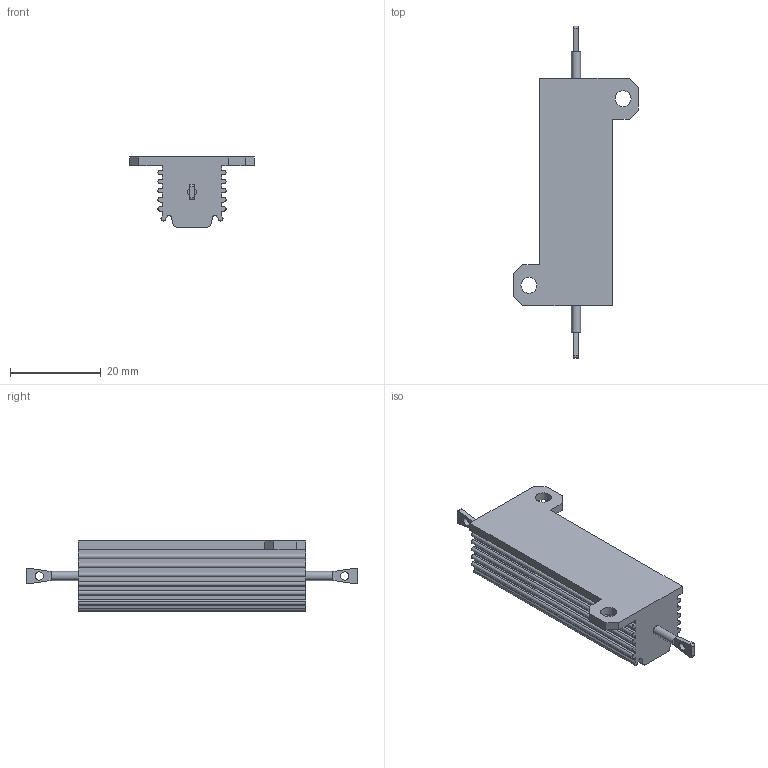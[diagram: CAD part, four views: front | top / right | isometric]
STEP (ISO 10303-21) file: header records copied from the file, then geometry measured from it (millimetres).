
FILE_DESCRIPTION(/* description */ ('STEP AP242 Edition 2','CAx-IF Rec.Pracs.---Representation and Presentation of Product Manufacturing Information (PMI)---4.0---2014-10-13','CAx-IF Rec.Pracs.---3D Tessellated Geometry---0.4---2014-09-14','2;1','CAx-IF Rec.Pracs.---User Defined Attributes---1.5---2016-08-15'),/* implementation_level */ '2;1');
FILE_NAME(/* name */ 'Assy_ForMFG - PWR_RESISTOR',/* time_stamp */ '2026-05-15T19:56:56Z',/* author */ (''),/* organization */ (''),/* preprocessor_version */ 'ST-DEVELOPER v20',/* originating_system */ 'ONSHAPE BY PTC INC, 1.215',/* authorisation */ ' ');
FILE_SCHEMA (('AP242_MANAGED_MODEL_BASED_3D_ENGINEERING_MIM_LF { 1 0 10303 442 3 1 4 }'));
Length unit declared in the file: metre
Products named in the file (1): PWR_RESISTOR
Bounding box: 27.4 x 73 x 15.4 mm (x, y, z)
Volume: 10513.6 mm3; surface area: 4844.7 mm2
Topology: 1 solids, 1 shells, 102 faces, 285 edges, 187 vertices
Faces by surface type: plane 76, cylinder 26
Full cylindrical faces by diameter (mm): 1.8 x2, 2 x2, 3.5 x2
Entity records: 3222 total; most frequent: CARTESIAN_POINT 559, ORIENTED_EDGE 548, DIRECTION 542, EDGE_CURVE 274, LINE 212, VECTOR 212, VERTEX_POINT 182, AXIS2_PLACEMENT_3D 165
